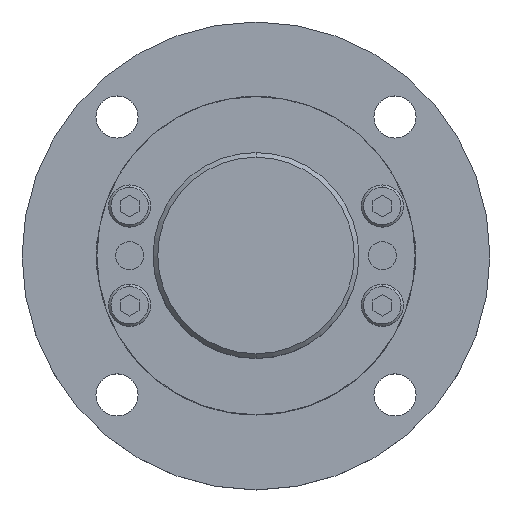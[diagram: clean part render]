
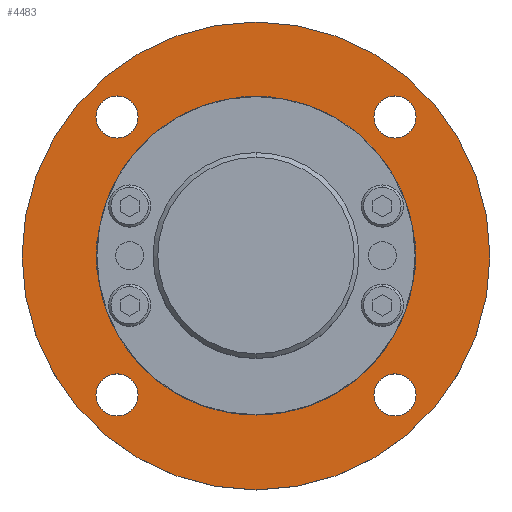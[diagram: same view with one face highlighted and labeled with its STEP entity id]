
A CAD part, top view. The second image highlights one B-rep face of the part: STEP entity #4483.
In plain terms, the highlighted planar face has unit normal (0, 0, 1).
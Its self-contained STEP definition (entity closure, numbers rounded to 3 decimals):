
#1741=CARTESIAN_POINT('',(-25.0,0.,-7.0));
#1742=VERTEX_POINT('',#1741);
#1758=CARTESIAN_POINT('',(25.0,0.,-7.0));
#1759=VERTEX_POINT('',#1758);
#1766=CARTESIAN_POINT('',(0.,0.,-7.0));
#1767=DIRECTION('',(0.0,0.0,-1.0));
#1768=DIRECTION('',(-1.0,0.0,0.0));
#1769=AXIS2_PLACEMENT_3D('',#1766,#1767,#1768);
#1770=CIRCLE('',#1769,25.0);
#1771=EDGE_CURVE('',#1759,#1742,#1770,.T.);
#1897=CARTESIAN_POINT('',(-17.099,-14.849,-7.0));
#1898=VERTEX_POINT('',#1897);
#1907=CARTESIAN_POINT('',(-12.599,-14.849,-7.0));
#1908=VERTEX_POINT('',#1907);
#1909=CARTESIAN_POINT('',(-14.849,-14.849,-7.0));
#1910=DIRECTION('',(0.0,0.0,-1.0));
#1911=DIRECTION('',(-1.0,0.0,0.0));
#1912=AXIS2_PLACEMENT_3D('',#1909,#1910,#1911);
#1913=CIRCLE('',#1912,2.25);
#1914=EDGE_CURVE('',#1908,#1898,#1913,.T.);
#1939=CARTESIAN_POINT('',(12.599,14.849,-7.0));
#1940=VERTEX_POINT('',#1939);
#1949=CARTESIAN_POINT('',(17.099,14.849,-7.0));
#1950=VERTEX_POINT('',#1949);
#1951=CARTESIAN_POINT('',(14.849,14.849,-7.0));
#1952=DIRECTION('',(0.0,0.0,-1.0));
#1953=DIRECTION('',(-1.0,0.0,0.0));
#1954=AXIS2_PLACEMENT_3D('',#1951,#1952,#1953);
#1955=CIRCLE('',#1954,2.25);
#1956=EDGE_CURVE('',#1950,#1940,#1955,.T.);
#1981=CARTESIAN_POINT('',(12.599,-14.849,-7.0));
#1982=VERTEX_POINT('',#1981);
#1991=CARTESIAN_POINT('',(17.099,-14.849,-7.0));
#1992=VERTEX_POINT('',#1991);
#1993=CARTESIAN_POINT('',(14.849,-14.849,-7.0));
#1994=DIRECTION('',(0.0,0.0,-1.0));
#1995=DIRECTION('',(-1.0,0.0,0.0));
#1996=AXIS2_PLACEMENT_3D('',#1993,#1994,#1995);
#1997=CIRCLE('',#1996,2.25);
#1998=EDGE_CURVE('',#1992,#1982,#1997,.T.);
#2023=CARTESIAN_POINT('',(-17.099,14.849,-7.0));
#2024=VERTEX_POINT('',#2023);
#2033=CARTESIAN_POINT('',(-12.599,14.849,-7.0));
#2034=VERTEX_POINT('',#2033);
#2035=CARTESIAN_POINT('',(-14.849,14.849,-7.0));
#2036=DIRECTION('',(0.0,0.0,-1.0));
#2037=DIRECTION('',(-1.0,0.0,0.0));
#2038=AXIS2_PLACEMENT_3D('',#2035,#2036,#2037);
#2039=CIRCLE('',#2038,2.25);
#2040=EDGE_CURVE('',#2034,#2024,#2039,.T.);
#2529=CARTESIAN_POINT('',(-17.0,0.,-7.0));
#2530=VERTEX_POINT('',#2529);
#2539=CARTESIAN_POINT('',(17.0,0.,-7.0));
#2540=VERTEX_POINT('',#2539);
#2541=CARTESIAN_POINT('',(0.,0.,-7.0));
#2542=DIRECTION('',(0.0,0.0,-1.0));
#2543=DIRECTION('',(-1.0,0.0,0.0));
#2544=AXIS2_PLACEMENT_3D('',#2541,#2542,#2543);
#2545=CIRCLE('',#2544,17.0);
#2546=EDGE_CURVE('',#2540,#2530,#2545,.T.);
#2960=CARTESIAN_POINT('',(0.,0.,-7.0));
#2961=DIRECTION('',(0.0,0.0,-1.0));
#2962=DIRECTION('',(-1.0,0.0,0.0));
#2963=AXIS2_PLACEMENT_3D('',#2960,#2961,#2962);
#2964=CIRCLE('',#2963,17.0);
#2965=EDGE_CURVE('',#2530,#2540,#2964,.T.);
#4260=CARTESIAN_POINT('',(-14.849,14.849,-7.0));
#4261=DIRECTION('',(0.0,0.0,-1.0));
#4262=DIRECTION('',(-1.0,0.0,0.0));
#4263=AXIS2_PLACEMENT_3D('',#4260,#4261,#4262);
#4264=CIRCLE('',#4263,2.25);
#4265=EDGE_CURVE('',#2024,#2034,#4264,.T.);
#4284=CARTESIAN_POINT('',(14.849,-14.849,-7.0));
#4285=DIRECTION('',(0.0,0.0,-1.0));
#4286=DIRECTION('',(-1.0,0.0,0.0));
#4287=AXIS2_PLACEMENT_3D('',#4284,#4285,#4286);
#4288=CIRCLE('',#4287,2.25);
#4289=EDGE_CURVE('',#1982,#1992,#4288,.T.);
#4308=CARTESIAN_POINT('',(14.849,14.849,-7.0));
#4309=DIRECTION('',(0.0,0.0,-1.0));
#4310=DIRECTION('',(-1.0,0.0,0.0));
#4311=AXIS2_PLACEMENT_3D('',#4308,#4309,#4310);
#4312=CIRCLE('',#4311,2.25);
#4313=EDGE_CURVE('',#1940,#1950,#4312,.T.);
#4332=CARTESIAN_POINT('',(-14.849,-14.849,-7.0));
#4333=DIRECTION('',(0.0,0.0,-1.0));
#4334=DIRECTION('',(-1.0,0.0,0.0));
#4335=AXIS2_PLACEMENT_3D('',#4332,#4333,#4334);
#4336=CIRCLE('',#4335,2.25);
#4337=EDGE_CURVE('',#1898,#1908,#4336,.T.);
#4442=CARTESIAN_POINT('',(0.,0.,-7.0));
#4443=DIRECTION('',(0.0,0.0,-1.0));
#4444=DIRECTION('',(-1.0,0.0,0.0));
#4445=AXIS2_PLACEMENT_3D('',#4442,#4443,#4444);
#4446=CIRCLE('',#4445,25.0);
#4447=EDGE_CURVE('',#1742,#1759,#4446,.T.);
#4454=CARTESIAN_POINT('',(-2.273,0.,-7.0));
#4455=DIRECTION('',(0.0,0.0,1.0));
#4456=DIRECTION('',(-1.0,0.0,0.0));
#4457=AXIS2_PLACEMENT_3D('',#4454,#4455,#4456);
#4458=PLANE('',#4457);
#4459=ORIENTED_EDGE('',*,*,#4447,.F.);
#4460=ORIENTED_EDGE('',*,*,#1771,.F.);
#4461=EDGE_LOOP('',(#4459,#4460));
#4462=FACE_OUTER_BOUND('',#4461,.T.);
#4463=ORIENTED_EDGE('',*,*,#2040,.T.);
#4464=ORIENTED_EDGE('',*,*,#4265,.T.);
#4465=EDGE_LOOP('',(#4463,#4464));
#4466=FACE_BOUND('',#4465,.T.);
#4467=ORIENTED_EDGE('',*,*,#1998,.T.);
#4468=ORIENTED_EDGE('',*,*,#4289,.T.);
#4469=EDGE_LOOP('',(#4467,#4468));
#4470=FACE_BOUND('',#4469,.T.);
#4471=ORIENTED_EDGE('',*,*,#1956,.T.);
#4472=ORIENTED_EDGE('',*,*,#4313,.T.);
#4473=EDGE_LOOP('',(#4471,#4472));
#4474=FACE_BOUND('',#4473,.T.);
#4475=ORIENTED_EDGE('',*,*,#1914,.T.);
#4476=ORIENTED_EDGE('',*,*,#4337,.T.);
#4477=EDGE_LOOP('',(#4475,#4476));
#4478=FACE_BOUND('',#4477,.T.);
#4479=ORIENTED_EDGE('',*,*,#2546,.T.);
#4480=ORIENTED_EDGE('',*,*,#2965,.T.);
#4481=EDGE_LOOP('',(#4479,#4480));
#4482=FACE_BOUND('',#4481,.T.);
#4483=ADVANCED_FACE('',(#4462,#4466,#4470,#4474,#4478,#4482),#4458,.T.);
